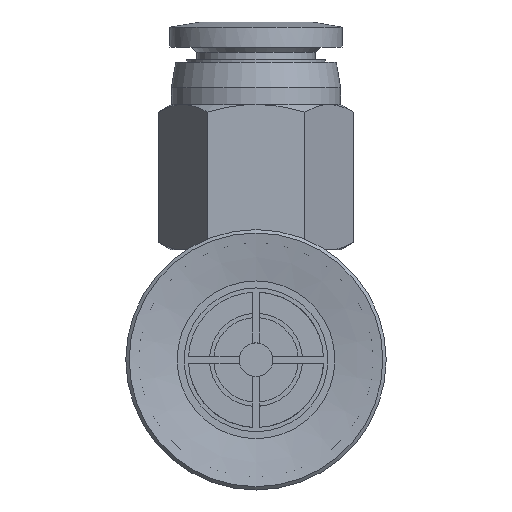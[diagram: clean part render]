
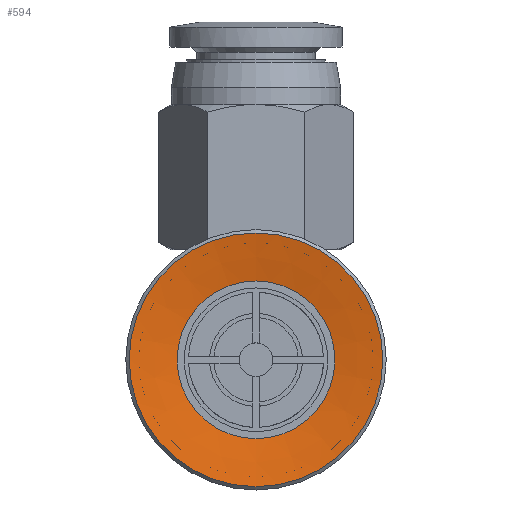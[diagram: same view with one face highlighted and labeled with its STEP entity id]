
A CAD part, front view. The second image highlights one B-rep face of the part: STEP entity #594.
In plain terms, the highlighted conical face has half-angle 80 degrees and reference radius 4.664 mm.
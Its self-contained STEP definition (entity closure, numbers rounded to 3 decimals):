
#594=ADVANCED_FACE('',(#989,#990),#991,.F.);
#989=FACE_BOUND('',#1468,.T.);
#990=FACE_OUTER_BOUND('',#1469,.T.);
#991=CONICAL_SURFACE('',#1470,4.664,1.396);
#1468=EDGE_LOOP('',(#2776));
#1469=EDGE_LOOP('',(#2777));
#1470=AXIS2_PLACEMENT_3D('',#2778,#2779,#2780);
#2776=ORIENTED_EDGE('',*,*,#3385,.F.);
#2777=ORIENTED_EDGE('',*,*,#3420,.T.);
#2778=CARTESIAN_POINT('',(0.0,0.5,0.0));
#2779=DIRECTION('',(-0.0,-1.0,0.));
#2780=DIRECTION('',(0.0,0.,-1.0));
#3385=EDGE_CURVE('',#3926,#3926,#3927,.T.);
#3420=EDGE_CURVE('',#3976,#3976,#3977,.T.);
#3926=VERTEX_POINT('',#5037);
#3927=CIRCLE('',#5038,4.664);
#3976=VERTEX_POINT('',#5121);
#3977=CIRCLE('',#5122,7.5);
#5037=CARTESIAN_POINT('',(0.0,0.5,-4.664));
#5038=AXIS2_PLACEMENT_3D('',#5954,#5955,#5956);
#5121=CARTESIAN_POINT('',(0.0,0.,-7.5));
#5122=AXIS2_PLACEMENT_3D('',#6022,#6023,#6024);
#5954=CARTESIAN_POINT('',(0.0,0.5,0.0));
#5955=DIRECTION('',(0.0,-1.0,0.));
#5956=DIRECTION('',(0.0,0.,-1.0));
#6022=CARTESIAN_POINT('',(0.0,0.0,0.0));
#6023=DIRECTION('',(0.0,-1.0,0.));
#6024=DIRECTION('',(0.0,0.,-1.0));
